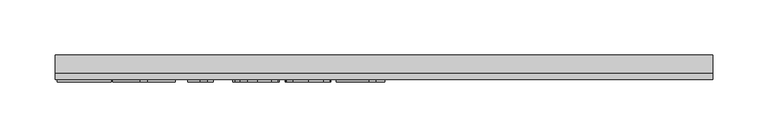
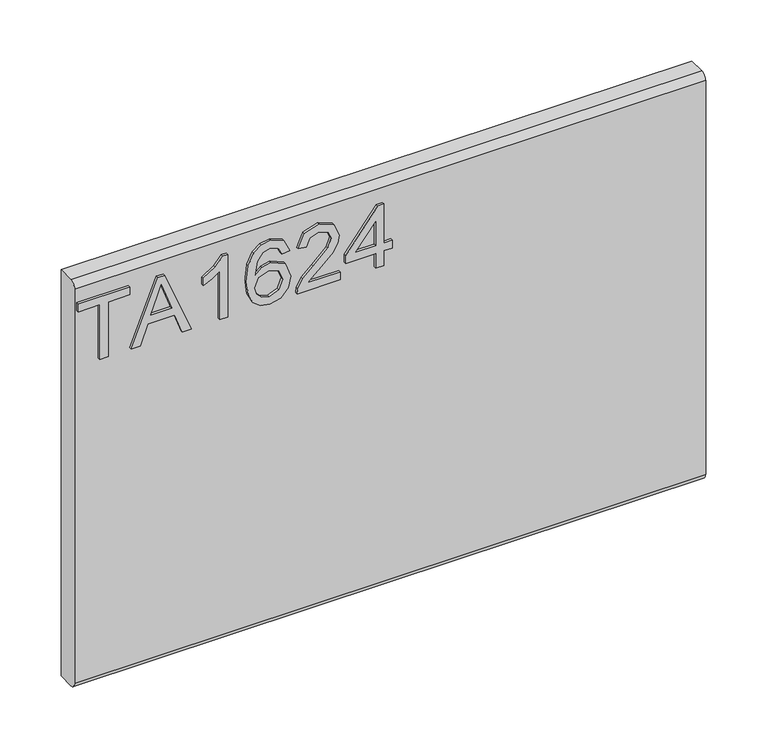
"""IFC4 building model written with IfcOpenShell, lengths in millimetres: furniture geometry."""

import ifcopenshell
import ifcopenshell.guid

model = None  # the IFC model being written
_history = None  # IfcOwnerHistory: only IFC2X3 demands one
_inside = {}  # id of a spatial element -> (the spatial element, [elements in it])
_under = {}  # id of a project, library or spatial element -> (it, [spatial elements below it])
_declared = {}  # id of a project -> (the project, [libraries it declares])
_typed = {}  # id of a type object -> (the type object, [elements of that type])
_made_of = {}  # id of a material, layer set ... -> (it, [elements and type objects made of it])


def new_model(schema):
    """Start an empty IFC model of exactly this schema.

    Asked for "IFC4X3", IfcOpenShell would pick the latest addendum, in which some entities
    have other attributes; the version numbers below select the first issue.
    IFC2X3 requires an IfcOwnerHistory on every rooted entity: one is made here for all.
    """
    global model, _history
    if schema == "IFC4X3":
        model = ifcopenshell.file(schema_version=(4, 3, 0, 0))
    else:
        model = ifcopenshell.file(schema=schema)
    _inside.clear()
    _under.clear()
    _declared.clear()
    _typed.clear()
    _made_of.clear()
    _history = None
    if model.schema == "IFC2X3":
        org = make("IfcOrganization", Name="unknown")
        user = make(
            "IfcPersonAndOrganization",
            ThePerson=make("IfcPerson", FamilyName="unknown"),
            TheOrganization=org,
        )
        app = make(
            "IfcApplication",
            ApplicationDeveloper=org,
            Version="unknown",
            ApplicationFullName="unknown",
            ApplicationIdentifier="unknown",
        )
        _history = make(
            "IfcOwnerHistory",
            OwningUser=user,
            OwningApplication=app,
            ChangeAction="ADDED",
            CreationDate=0,
        )
    return model


def make(cls, **values):
    """One entity of the class cls with the attributes given. An attribute that is None is left unset."""
    return model.create_entity(
        cls, **{name: value for name, value in values.items() if value is not None}
    )


def rooted(cls, **values):
    """An entity with a GlobalId (a new one), such as an element, a storey or a relation."""
    return make(cls, GlobalId=ifcopenshell.guid.new(), OwnerHistory=_history, **values)


def si_unit(unit_type, name, prefix=None):
    """IfcSIUnit, for example si_unit("LENGTHUNIT", "METRE", prefix="MILLI")."""
    return make("IfcSIUnit", UnitType=unit_type, Prefix=prefix, Name=name)


def assignment(units):
    """IfcUnitAssignment: the units of a project."""
    return None if units is None else make("IfcUnitAssignment", Units=units)


def point(xyz):
    """IfcCartesianPoint."""
    return None if xyz is None else make("IfcCartesianPoint", Coordinates=xyz)


def direction(xyz):
    """IfcDirection."""
    return None if xyz is None else make("IfcDirection", DirectionRatios=xyz)


def frame(location, z_axis=None, x_axis=None):
    """IfcAxis2Placement3D, a coordinate frame: its origin and axes. An axis left out is left unset."""
    return make(
        "IfcAxis2Placement3D",
        Location=point(location),
        Axis=direction(z_axis),
        RefDirection=direction(x_axis),
    )


def origin():
    """The frame at (0, 0, 0) with its axes left unset."""
    return frame((0.0, 0.0, 0.0))


def place(relative_to, where):
    """IfcLocalPlacement: puts the frame where relative to a parent placement (None: the world)."""
    return make(
        "IfcLocalPlacement", PlacementRelTo=relative_to, RelativePlacement=where
    )


def context(
    kind, dimensions, precision=None, world=None, true_north=None, identifier=None
):
    """IfcGeometricRepresentationContext, for example the 3D "Model" context."""
    return make(
        "IfcGeometricRepresentationContext",
        ContextIdentifier=identifier,
        ContextType=kind,
        CoordinateSpaceDimension=dimensions,
        Precision=precision,
        WorldCoordinateSystem=world,
        TrueNorth=true_north,
    )


def project(units=None, contexts=None):
    """IfcProject with its units and contexts."""
    return rooted(
        "IfcProject",
        Name="project",
        RepresentationContexts=contexts,
        UnitsInContext=assignment(units),
    )


def spatial(cls, under=None, at=None, **own):
    """A site, building, storey or space (cls), placed at a placement, below another one or the project."""
    s = rooted(cls, ObjectPlacement=at, **own)
    if under is not None:
        _under.setdefault(under.id(), (under, []))[1].append(s)
    return s


def polyline(points):
    """IfcPolyline through the points."""
    return make("IfcPolyline", Points=[point(p) for p in points])


def circle_curve(where, radius):
    """IfcCircle in the frame where."""
    return make("IfcCircle", Position=where, Radius=radius)


def outline(outer, holes=None, kind="AREA"):
    """IfcArbitraryClosedProfileDef: a profile drawn as a closed curve; with holes, ...WithVoids."""
    if holes is None:
        return make("IfcArbitraryClosedProfileDef", ProfileType=kind, OuterCurve=outer)
    return make(
        "IfcArbitraryProfileDefWithVoids",
        ProfileType=kind,
        OuterCurve=outer,
        InnerCurves=holes,
    )


def extrude(swept, where, along, depth):
    """IfcExtrudedAreaSolid: the profile swept, set in the frame where, extruded along a direction by depth."""
    return make(
        "IfcExtrudedAreaSolid",
        SweptArea=swept,
        Position=where,
        ExtrudedDirection=direction(along),
        Depth=depth,
    )


def shape(context_of_items, identifier, shape_type, items):
    """IfcShapeRepresentation: the items that make up one representation, for example the "Body"."""
    return make(
        "IfcShapeRepresentation",
        ContextOfItems=context_of_items,
        RepresentationIdentifier=identifier,
        RepresentationType=shape_type,
        Items=items,
    )


def source(mapping_origin, context_of_items, identifier, shape_type, items):
    """IfcRepresentationMap: a shape defined once, which mapped items show again and again."""
    return make(
        "IfcRepresentationMap",
        MappingOrigin=mapping_origin,
        MappedRepresentation=shape(context_of_items, identifier, shape_type, items),
    )


def transform(
    local_origin,
    x_axis=None,
    y_axis=None,
    z_axis=None,
    scale=None,
    scale2=None,
    scale3=None,
    uniform=True,
):
    """IfcCartesianTransformationOperator3D, or its non-uniform kind. x_axis, y_axis, z_axis: its Axis1, 2, 3."""
    if uniform:
        return make(
            "IfcCartesianTransformationOperator3D",
            Axis1=direction(x_axis),
            Axis2=direction(y_axis),
            LocalOrigin=point(local_origin),
            Scale=scale,
            Axis3=direction(z_axis),
        )
    return make(
        "IfcCartesianTransformationOperator3DnonUniform",
        Axis1=direction(x_axis),
        Axis2=direction(y_axis),
        LocalOrigin=point(local_origin),
        Scale=scale,
        Axis3=direction(z_axis),
        Scale2=scale2,
        Scale3=scale3,
    )


def mapped(mapping_source, mapping_target):
    """IfcMappedItem: shows the shape of a source again, moved by a transform."""
    return make(
        "IfcMappedItem", MappingSource=mapping_source, MappingTarget=mapping_target
    )


def made_of(thing, what):
    """Note that an element or type object is made of a material, layer set ...; save() writes the relation."""
    if what is not None:
        _made_of.setdefault(what.id(), (what, []))[1].append(thing)
    return thing


def element(
    cls,
    number,
    at=None,
    inside=None,
    cuts=None,
    type_object=None,
    material=None,
    context=None,
    identifier="Body",
    shape_type=None,
    held_by="IfcProductDefinitionShape",
    body=None,
    shapes=None,
    **own,
):
    """One element of the class cls, such as IfcWall. Its Tag is "e" and its number.

    at: its placement. inside: the storey or other place that contains it. cuts: it is an
    opening in that element (IfcRelVoidsElement). A single representation is given by context,
    identifier, shape_type and body (its items); several are given by shapes. held_by: the class
    of the entity that holds the representations. save() writes the other relations.
    """
    e = rooted(cls, Tag="e%d" % number, ObjectPlacement=at, **own)
    if body is not None:
        shapes = [shape(context, identifier, shape_type, body)]
    if shapes is not None:
        e.Representation = make(held_by, Representations=shapes)
    if inside is not None:
        _inside.setdefault(inside.id(), (inside, []))[1].append(e)
    if cuts is not None:
        rooted(
            "IfcRelVoidsElement", RelatingBuildingElement=cuts, RelatedOpeningElement=e
        )
    if type_object is not None:
        _typed.setdefault(type_object.id(), (type_object, []))[1].append(e)
    return made_of(e, material)


def aggregate(whole, parts):
    """IfcRelAggregates: a whole, such as a stair, and the parts it consists of."""
    return rooted("IfcRelAggregates", RelatingObject=whole, RelatedObjects=parts)


def save(model, path):
    """Write the relations noted so far, then the file.

    IfcRelAggregates (storeys below a building ...), IfcRelContainedInSpatialStructure (elements
    in a storey), IfcRelDefinesByType, IfcRelAssociatesMaterial and IfcRelDeclares: one each for
    every whole, place, type object, material and project.
    """
    for whole, parts in _under.values():
        aggregate(whole, parts)
    for where, things in _inside.values():
        rooted(
            "IfcRelContainedInSpatialStructure",
            RelatedElements=things,
            RelatingStructure=where,
        )
    for kind, things in _typed.values():
        rooted("IfcRelDefinesByType", RelatedObjects=things, RelatingType=kind)
    for what, things in _made_of.values():
        rooted("IfcRelAssociatesMaterial", RelatedObjects=things, RelatingMaterial=what)
    for by, libraries in _declared.values():
        rooted("IfcRelDeclares", RelatingContext=by, RelatedDefinitions=libraries)
    model.write(path)


def plane_surface(at):
    """IfcPlane: the flat surface through the origin of the frame at, square to its z axis."""
    return make("IfcPlane", Position=at)


def cylinder_surface(at, radius):
    """IfcCylindricalSurface: all points at the distance radius from the z axis of the frame at."""
    return make("IfcCylindricalSurface", Position=at, Radius=radius)


def advanced_brep(points, edges, surfaces, faces):
    """IfcAdvancedBrep: a solid bounded by faces that lie on surfaces and meet in shared edges.

    An edge is (start, end): straight between two places in points (the first is 0);
    or (start, end, curve); or (start, end, curve, False) where it runs against its curve.
    A face is (place in surfaces, loops), or (place, loops, False) where it looks against
    its surface's normal. A loop lists edges by number (the first is 1), with a minus sign
    where the edge is run from its end to its start. The first loop is the outer one.
    """
    corners = [point(p) for p in points]
    vertices = [make("IfcVertexPoint", VertexGeometry=c) for c in corners]
    made = []
    for start, end, *more in edges:
        made.append(
            make(
                "IfcEdgeCurve",
                EdgeStart=vertices[start],
                EdgeEnd=vertices[end],
                EdgeGeometry=more[0] if more else make("IfcPolyline", Points=[corners[start], corners[end]]),
                SameSense=more[1] if len(more) > 1 else True,
            )
        )
    hull = []
    for where, loops, *sense in faces:
        bounds = []
        for j, loop in enumerate(loops):
            ring = [make("IfcOrientedEdge", EdgeElement=made[abs(k) - 1], Orientation=k > 0) for k in loop]
            bounds.append(
                make(
                    "IfcFaceOuterBound" if j == 0 else "IfcFaceBound",
                    Bound=make("IfcEdgeLoop", EdgeList=ring),
                    Orientation=True,
                )
            )
        hull.append(make("IfcAdvancedFace", Bounds=bounds, FaceSurface=surfaces[where], SameSense=sense[0] if sense else True))
    return make("IfcAdvancedBrep", Outer=make("IfcClosedShell", CfsFaces=hull))


def furniture_8cdcebd1(model_context):
    return source(origin(), model_context, "Body", "SolidModel", [
        extrude(outline(polyline([(882.65, -275.9807692), (882.65, -268.1653846), (937.3576923, -268.1653846), (937.3576923, -247.65), (945.1730769, -247.65), (945.1730769, -296.4961538), (937.3576923, -296.4961538), (937.3576923, -275.9807692), (882.65, -275.9807692)])), frame((0.0, -15.0812439, 0.0), z_axis=(0.0, 1.0, 0.0), x_axis=(0.0, 0.0, 1.0)), (0.0, 0.0, 1.0), 2.38125),
        extrude(outline(polyline([(882.65, -246.1388221), (882.65, -237.8807692), (902.1884615, -230.7370192), (902.1884615, -204.9859375), (882.65, -197.8269231), (882.65, -189.5688702), (945.1730769, -214.5262019), (945.1730769, -221.1814904), (882.65, -246.1388221)]), holes=[polyline([(910.0038462, -227.8673077), (926.7183894, -221.746274), (937.3576923, -217.8538462), (925.3751202, -213.4729567), (910.0038462, -207.8403846), (910.0038462, -227.8673077)])]), frame((0.0, -15.0812439, 0.0), z_axis=(0.0, 1.0, 0.0), x_axis=(0.0, 0.0, 1.0)), (0.0, 0.0, 1.0), 2.38125),
        extrude(outline(polyline([(882.65, -154.8423077), (945.1730769, -154.8423077), (945.1730769, -159.8795673), (936.8539663, -166.832512), (929.5423077, -178.2884615), (922.1543269, -178.2884615), (926.1001803, -170.0609375), (931.3740385, -162.6576923), (882.65, -162.6576923), (882.65, -154.8423077)])), frame((0.0, -15.0812439, 0.0), z_axis=(0.0, 1.0, 0.0), x_axis=(0.0, 0.0, 1.0)), (0.0, 0.0, 1.0), 2.38125),
        extrude(outline(polyline([(928.5653846, -96.2269231), (940.7616587, -101.996875), (945.1730769, -114.3457933), (943.3909555, -123.4166767), (938.0445913, -130.4192308), (927.4014724, -135.5480769), (911.8355769, -137.2576923), (897.9907452, -135.7178936), (888.6947115, -131.0984976), (883.4284856, -124.0367939), (881.6730769, -115.1700721), (884.3214543, -104.9276442), (891.9536659, -97.8296875), (902.7379808, -95.25), (917.1323317, -100.7299279), (922.7038462, -114.009976), (920.6660457, -122.5504207), (914.4305288, -129.4423077), (928.3593149, -127.2213341), (935.4649038, -121.8864183), (937.3576923, -114.8342548), (934.1063702, -107.0036058), (927.5884615, -104.0423077), (928.5653846, -96.2269231)]), holes=[polyline([(902.8600962, -129.4423077), (911.5684495, -125.557512), (914.8884615, -116.1012019), (911.5684495, -106.5227764), (902.4784856, -103.0653846), (892.9840144, -106.5685697), (889.4884615, -115.780649), (891.1751803, -122.8251803), (896.0903245, -127.6334736), (902.8600962, -129.4423077)])]), frame((0.0, -15.0812439, 0.0), z_axis=(0.0, 1.0, 0.0), x_axis=(0.0, 0.0, 1.0)), (0.0, 0.0, 1.0), 2.38125),
        extrude(outline(polyline([(890.4653846, -48.3576923), (890.4653846, -79.0544471), (894.4417668, -75.5283654), (901.9594952, -66.5376202), (912.667488, -55.3411659), (920.3302284, -50.7236779), (927.7411058, -49.3346154), (940.1663462, -54.4863582), (945.1730769, -68.4762019), (940.6700721, -82.4202524), (927.5884615, -88.4115385), (926.6115385, -80.5961538), (934.5032452, -77.3066707), (937.3576923, -68.6441106), (934.4345553, -60.3326322), (927.2679087, -57.15), (918.4145433, -60.5234375), (905.3939904, -74.0171875), (896.3345553, -83.8016827), (888.0383413, -88.5489183), (882.65, -89.3884615), (882.65, -48.3576923), (890.4653846, -48.3576923)])), frame((0.0, -15.0812439, 0.0), z_axis=(0.0, 1.0, 0.0), x_axis=(0.0, 0.0, 1.0)), (0.0, 0.0, 1.0), 2.38125),
        extrude(outline(polyline([(882.65, -15.1423077), (882.65, -7.3269231), (897.3038462, -7.3269231), (897.3038462, 0.4884615), (905.1192308, 0.4884615), (905.1192308, -7.3269231), (944.1961538, -7.3269231), (944.1961538, -13.1884615), (905.1192308, -43.4730769), (897.3038462, -43.4730769), (897.3038462, -15.1423077), (882.65, -15.1423077)]), holes=[polyline([(905.1192308, -15.1423077), (905.1192308, -33.8564904), (929.2675481, -15.1423077), (905.1192308, -15.1423077)])]), frame((0.0, -15.0812439, 0.0), z_axis=(0.0, 1.0, 0.0), x_axis=(0.0, 0.0, 1.0)), (0.0, 0.0, 1.0), 2.38125),
        advanced_brep(
        [(298.45, 9.5250061, 965.2), (298.45, -6.7309939, 965.2), (298.45, -12.6999939, 959.231), (298.45, -12.6999939, 564.769), (298.45, -6.7309939, 558.8), (298.45, 9.5250061, 558.8), (-298.45, 9.5250061, 965.2), (-298.45, 9.5250061, 558.8), (-298.45, -6.7309939, 558.8), (-298.45, -12.6999939, 564.769), (-298.45, -12.6999939, 959.2310121), (-298.45, -6.7309939, 965.2)],
        [
            (0, 1),
            (1, 2, circle_curve(frame((298.45, -6.7309939, 959.231), z_axis=(1.0, 0.0, 0.0), x_axis=(0.0, 1.0, 0.0)), 5.969)),
            (2, 3),
            (3, 4, circle_curve(frame((298.45, -6.7309939, 564.769), z_axis=(1.0, 0.0, 0.0), x_axis=(0.0, 1.0, 0.0)), 5.969)),
            (4, 5),
            (5, 0),
            (6, 7),
            (7, 8),
            (8, 9, circle_curve(frame((-298.45, -6.7309939, 564.769), z_axis=(-1.0, 0.0, 0.0), x_axis=(0.0, 1.0, 0.0)), 5.969)),
            (9, 10),
            (10, 11, circle_curve(frame((-298.45, -6.7309939, 959.231), z_axis=(-1.0, 0.0, 0.0), x_axis=(0.0, 1.0, 0.0)), 5.969)),
            (11, 6),
            (0, 6),
            (11, 1),
            (10, 2),
            (9, 3),
            (8, 4),
            (7, 5),
        ],
        [
            plane_surface(frame((298.45, -6.7309939, 965.2), z_axis=(1.0, 0.0, 0.0), x_axis=(0.0, -1.0, 0.0))),
            plane_surface(frame((-298.45, -6.7309939, 965.2), z_axis=(-1.0, 0.0, 0.0), x_axis=(0.0, 1.0, 0.0))),
            plane_surface(frame((298.45, 9.5250061, 965.2), z_axis=(0.0, 0.0, 1.0), x_axis=(-1.0, 0.0, 0.0))),
            cylinder_surface(frame((-298.45, -6.7309939, 959.231), z_axis=(1.0, 0.0, 0.0), x_axis=(0.0, 1.0, 0.0)), 5.969),
            plane_surface(frame((298.45, -12.6999939, 959.2310121), z_axis=(0.0, -1.0, 0.0), x_axis=(-1.0, 0.0, 0.0))),
            cylinder_surface(frame((-298.45, -6.7309939, 564.769), z_axis=(1.0, 0.0, 0.0), x_axis=(0.0, 1.0, 0.0)), 5.969),
            plane_surface(frame((298.45, -6.7309939, 558.8), z_axis=(0.0, 0.0, -1.0), x_axis=(-1.0, 0.0, 0.0))),
            plane_surface(frame((298.45, 9.5250061, 558.8), z_axis=(0.0, 1.0, 0.0), x_axis=(-1.0, 0.0, 0.0))),
        ],
        [
            (0, [[1, 2, 3, 4, 5, 6]]),
            (1, [[7, 8, 9, 10, 11, 12]]),
            (2, [[-1, 13, -12, 14]]),
            (3, [[-2, -14, -11, 15]]),
            (4, [[-3, -15, -10, 16]]),
            (5, [[-4, -16, -9, 17]]),
            (6, [[-5, -17, -8, 18]]),
            (7, [[-6, -18, -7, -13]]),
        ],
    ),
    ])


if __name__ == "__main__":
    model = new_model("IFC4")
    model_context = context("Model", 3, world=origin())
    ifc_project = project(units=[si_unit("LENGTHUNIT", "METRE", prefix="MILLI")], contexts=[model_context])
    site = spatial("IfcSite", under=ifc_project)
    building = spatial("IfcBuilding", under=site)
    placement = place(None, origin())
    furniture_shape = furniture_8cdcebd1(model_context)
    element("IfcFurniture", 1, ObjectType="HermanMiller_Ethospace_E1422_TackableTile : 16\"H x 24\"W", at=placement, inside=building, context=model_context, shape_type="MappedRepresentation", body=[
        mapped(furniture_shape, transform((0.0, 0.0, 0.0), x_axis=(1.0, 0.0, 0.0), y_axis=(0.0, 1.0, 0.0), z_axis=(0.0, 0.0, 1.0))),
    ])
    save(model, "model.ifc")
